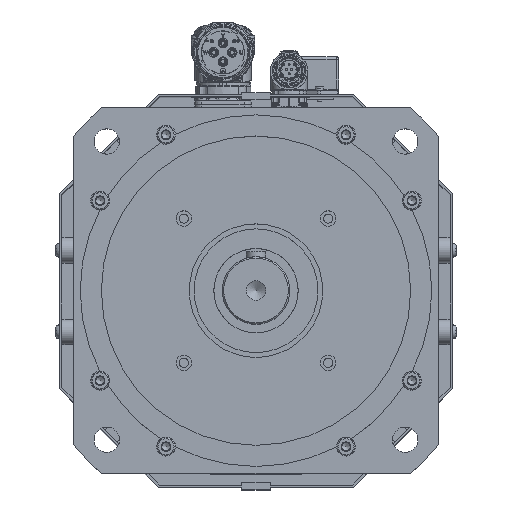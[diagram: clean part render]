
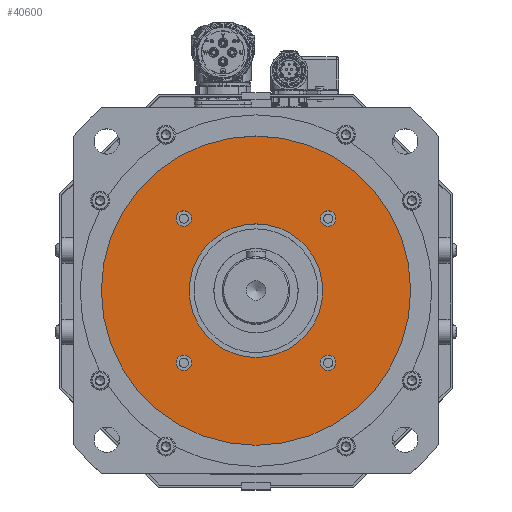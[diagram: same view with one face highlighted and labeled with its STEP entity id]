
A CAD part, top view. The second image highlights one B-rep face of the part: STEP entity #40600.
In plain terms, the highlighted planar face has unit normal (0, 0, 1).
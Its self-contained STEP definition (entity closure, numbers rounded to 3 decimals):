
#12052=FACE_BOUND('',#13183,.T.);
#12053=FACE_BOUND('',#13184,.T.);
#12054=FACE_BOUND('',#13185,.T.);
#12055=FACE_BOUND('',#13186,.T.);
#12056=FACE_BOUND('',#13187,.T.);
#12057=FACE_BOUND('',#13188,.T.);
#13183=EDGE_LOOP('',(#28334));
#13184=EDGE_LOOP('',(#28335));
#13185=EDGE_LOOP('',(#28336));
#13186=EDGE_LOOP('',(#28337));
#13187=EDGE_LOOP('',(#28338));
#13188=EDGE_LOOP('',(#28339));
#16623=CIRCLE('',#43263,5.5);
#16626=CIRCLE('',#43269,5.5);
#16629=CIRCLE('',#43275,5.5);
#16632=CIRCLE('',#43281,5.5);
#16692=CIRCLE('',#43387,47.5);
#16693=CIRCLE('',#43390,110.);
#18563=VERTEX_POINT('',#58852);
#18566=VERTEX_POINT('',#58861);
#18569=VERTEX_POINT('',#58870);
#18572=VERTEX_POINT('',#58879);
#18636=VERTEX_POINT('',#59076);
#18637=VERTEX_POINT('',#59080);
#22512=EDGE_CURVE('',#18563,#18563,#16623,.T.);
#22515=EDGE_CURVE('',#18566,#18566,#16626,.T.);
#22518=EDGE_CURVE('',#18569,#18569,#16629,.T.);
#22521=EDGE_CURVE('',#18572,#18572,#16632,.T.);
#22608=EDGE_CURVE('',#18636,#18636,#16692,.T.);
#22609=EDGE_CURVE('',#18637,#18637,#16693,.T.);
#28334=ORIENTED_EDGE('',*,*,#22512,.T.);
#28335=ORIENTED_EDGE('',*,*,#22515,.T.);
#28336=ORIENTED_EDGE('',*,*,#22518,.T.);
#28337=ORIENTED_EDGE('',*,*,#22521,.T.);
#28338=ORIENTED_EDGE('',*,*,#22608,.T.);
#28339=ORIENTED_EDGE('',*,*,#22609,.F.);
#39421=PLANE('',#43391);
#40600=ADVANCED_FACE('',(#12052,#12053,#12054,#12055,#12056,#12057),#39421,
 .T.);
#43263=AXIS2_PLACEMENT_3D('',#58853,#47729,#47730);
#43269=AXIS2_PLACEMENT_3D('',#58862,#47741,#47742);
#43275=AXIS2_PLACEMENT_3D('',#58871,#47753,#47754);
#43281=AXIS2_PLACEMENT_3D('',#58880,#47765,#47766);
#43387=AXIS2_PLACEMENT_3D('',#59077,#48004,#48005);
#43390=AXIS2_PLACEMENT_3D('',#59081,#48010,#48011);
#43391=AXIS2_PLACEMENT_3D('',#59082,#48012,#48013);
#47729=DIRECTION('center_axis',(0.,0.,-1.));
#47730=DIRECTION('ref_axis',(0.,-1.,0.));
#47741=DIRECTION('center_axis',(0.,0.,-1.));
#47742=DIRECTION('ref_axis',(-1.,0.,0.));
#47753=DIRECTION('center_axis',(0.,0.,-1.));
#47754=DIRECTION('ref_axis',(0.,1.,0.));
#47765=DIRECTION('center_axis',(0.,0.,-1.));
#47766=DIRECTION('ref_axis',(1.,0.,0.));
#48004=DIRECTION('center_axis',(0.,0.,-1.));
#48005=DIRECTION('ref_axis',(-1.,0.,0.));
#48010=DIRECTION('center_axis',(0.,0.,-1.));
#48011=DIRECTION('ref_axis',(-1.,0.,0.));
#48012=DIRECTION('center_axis',(0.,0.,1.));
#48013=DIRECTION('ref_axis',(1.,0.,0.));
#58852=CARTESIAN_POINT('',(51.265,45.765,47.));
#58853=CARTESIAN_POINT('Origin',(51.265,51.265,47.));
#58861=CARTESIAN_POINT('',(45.765,-51.265,47.));
#58862=CARTESIAN_POINT('Origin',(51.265,-51.265,47.));
#58870=CARTESIAN_POINT('',(-51.265,-45.765,47.));
#58871=CARTESIAN_POINT('Origin',(-51.265,-51.265,47.));
#58879=CARTESIAN_POINT('',(-45.765,51.265,47.));
#58880=CARTESIAN_POINT('Origin',(-51.265,51.265,47.));
#59076=CARTESIAN_POINT('',(47.5,0.,47.));
#59077=CARTESIAN_POINT('Origin',(0.,0.,47.));
#59080=CARTESIAN_POINT('',(110.,0.,47.));
#59081=CARTESIAN_POINT('Origin',(0.,0.,47.));
#59082=CARTESIAN_POINT('Origin',(0.,0.,47.));
